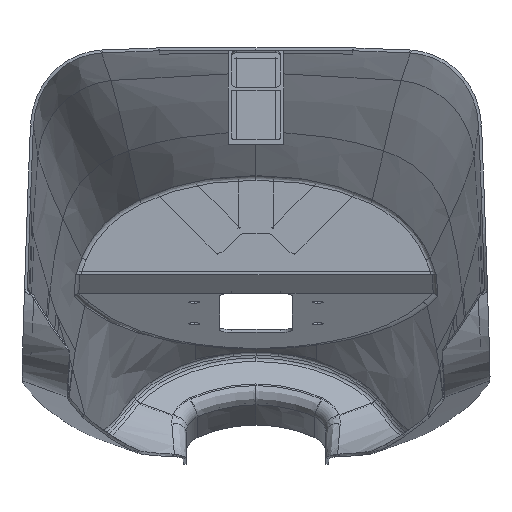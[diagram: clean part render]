
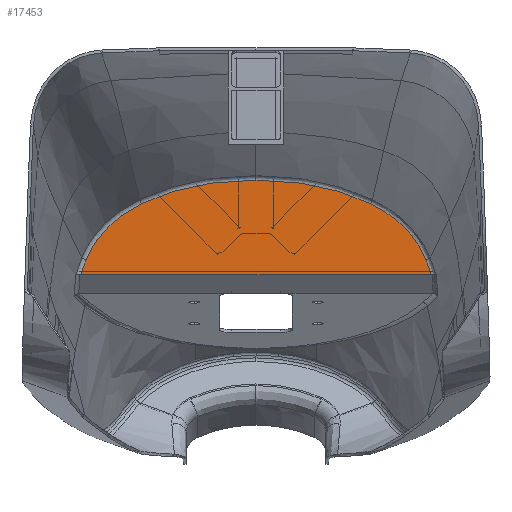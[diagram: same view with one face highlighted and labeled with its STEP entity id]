
A CAD part, left-side view. The second image highlights one B-rep face of the part: STEP entity #17453.
In plain terms, the highlighted planar face has unit normal (-1, 0, 0).
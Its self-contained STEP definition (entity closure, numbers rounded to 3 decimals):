
#1671=CARTESIAN_POINT('',(227.237,-36.169,61.229));
#3362=CARTESIAN_POINT('',(227.237,35.058,64.292));
#3363=CARTESIAN_POINT('',(227.237,35.2,63.954));
#3364=CARTESIAN_POINT('',(227.237,35.471,63.276));
#3365=CARTESIAN_POINT('',(227.237,35.828,62.287));
#3366=CARTESIAN_POINT('',(227.237,36.058,61.585));
#3367=CARTESIAN_POINT('',(227.237,36.169,61.229));
#3369=CARTESIAN_POINT('',(227.237,23.59,75.861));
#3370=CARTESIAN_POINT('',(227.237,24.436,75.446));
#3371=CARTESIAN_POINT('',(227.237,26.011,74.59));
#3372=CARTESIAN_POINT('',(227.237,28.042,73.238));
#3373=CARTESIAN_POINT('',(227.237,29.704,71.895));
#3374=CARTESIAN_POINT('',(227.237,31.14,70.494));
#3375=CARTESIAN_POINT('',(227.237,32.515,68.864));
#3376=CARTESIAN_POINT('',(227.237,33.872,66.817));
#3377=CARTESIAN_POINT('',(227.237,34.684,65.183));
#3378=CARTESIAN_POINT('',(227.237,35.058,64.292));
#3380=CARTESIAN_POINT('',(227.237,0.,80.733));
#3381=CARTESIAN_POINT('',(227.237,3.262,80.733));
#3382=CARTESIAN_POINT('',(227.237,9.358,80.309));
#3383=CARTESIAN_POINT('',(227.237,17.249,78.568));
#3384=CARTESIAN_POINT('',(227.237,21.606,76.835));
#3385=CARTESIAN_POINT('',(227.237,23.59,75.861));
#3387=CARTESIAN_POINT('',(227.237,-23.59,75.861));
#3388=CARTESIAN_POINT('',(227.237,-21.606,76.835));
#3389=CARTESIAN_POINT('',(227.237,-17.249,78.568));
#3390=CARTESIAN_POINT('',(227.237,-9.358,80.309));
#3391=CARTESIAN_POINT('',(227.237,-3.262,80.733));
#3392=CARTESIAN_POINT('',(227.237,0.,80.733));
#3394=CARTESIAN_POINT('',(227.237,-35.058,64.292));
#3395=CARTESIAN_POINT('',(227.237,-34.684,65.183));
#3396=CARTESIAN_POINT('',(227.237,-33.872,66.817));
#3397=CARTESIAN_POINT('',(227.237,-32.515,68.864));
#3398=CARTESIAN_POINT('',(227.237,-31.14,70.494));
#3399=CARTESIAN_POINT('',(227.237,-29.704,71.895));
#3400=CARTESIAN_POINT('',(227.237,-28.042,73.238));
#3401=CARTESIAN_POINT('',(227.237,-26.011,74.59));
#3402=CARTESIAN_POINT('',(227.237,-24.436,75.446));
#3403=CARTESIAN_POINT('',(227.237,-23.59,75.861));
#3405=CARTESIAN_POINT('',(227.237,-36.169,61.229));
#3406=CARTESIAN_POINT('',(227.237,-36.068,61.554));
#3407=CARTESIAN_POINT('',(227.237,-35.853,62.214));
#3408=CARTESIAN_POINT('',(227.237,-35.494,63.215));
#3409=CARTESIAN_POINT('',(227.237,-35.211,63.928));
#3410=CARTESIAN_POINT('',(227.237,-35.058,64.292));
#3412=DIRECTION('',(0.,1.,0.));
#3413=VECTOR('',#3412,72.338);
#3414=CARTESIAN_POINT('',(227.237,-36.169,61.229));
#3415=LINE('',#3414,#3413);
#10516=VERTEX_POINT('',#3362);
#10517=VERTEX_POINT('',#3367);
#10522=VERTEX_POINT('',#3369);
#10524=VERTEX_POINT('',#3380);
#10526=VERTEX_POINT('',#3387);
#10528=VERTEX_POINT('',#3394);
#10529=VERTEX_POINT('',#1671);
#17434=CARTESIAN_POINT('',(227.237,0.,81.423));
#17435=DIRECTION('',(-1.,0.,0.));
#17436=DIRECTION('',(0.,0.,-1.));
#17437=AXIS2_PLACEMENT_3D('',#17434,#17435,#17436);
#17438=PLANE('',#17437);
#17439=ORIENTED_EDGE('',*,*,#17423,.F.);
#17441=ORIENTED_EDGE('',*,*,#17440,.F.);
#17443=ORIENTED_EDGE('',*,*,#17442,.F.);
#17445=ORIENTED_EDGE('',*,*,#17444,.F.);
#17447=ORIENTED_EDGE('',*,*,#17446,.F.);
#17449=ORIENTED_EDGE('',*,*,#17448,.F.);
#17450=ORIENTED_EDGE('',*,*,#14347,.T.);
#17451=EDGE_LOOP('',(#17439,#17441,#17443,#17445,#17447,#17449,#17450));
#17452=FACE_OUTER_BOUND('',#17451,.F.);
#3368=B_SPLINE_CURVE_WITH_KNOTS('',3,(#3362,#3363,#3364,#3365,#3366,#3367),
.UNSPECIFIED.,.F.,.F.,(4,1,1,4),(0.,0.333,0.667,1.),
.UNSPECIFIED.);
#3379=B_SPLINE_CURVE_WITH_KNOTS('',3,(#3369,#3370,#3371,#3372,#3373,#3374,#3375,
#3376,#3377,#3378),.UNSPECIFIED.,.F.,.F.,(4,1,1,1,1,1,1,4),(0.,
0.143,0.286,0.429,0.571,
0.714,0.857,1.),.UNSPECIFIED.);
#3386=B_SPLINE_CURVE_WITH_KNOTS('',3,(#3380,#3381,#3382,#3383,#3384,#3385),
.UNSPECIFIED.,.F.,.F.,(4,1,1,4),(0.,0.333,0.667,1.),
.UNSPECIFIED.);
#3393=B_SPLINE_CURVE_WITH_KNOTS('',3,(#3387,#3388,#3389,#3390,#3391,#3392),
.UNSPECIFIED.,.F.,.F.,(4,1,1,4),(0.,0.333,0.667,1.),
.UNSPECIFIED.);
#3404=B_SPLINE_CURVE_WITH_KNOTS('',3,(#3394,#3395,#3396,#3397,#3398,#3399,#3400,
#3401,#3402,#3403),.UNSPECIFIED.,.F.,.F.,(4,1,1,1,1,1,1,4),(0.,
0.143,0.286,0.429,0.571,
0.714,0.857,1.),.UNSPECIFIED.);
#3411=B_SPLINE_CURVE_WITH_KNOTS('',3,(#3405,#3406,#3407,#3408,#3409,#3410),
.UNSPECIFIED.,.F.,.F.,(4,1,1,4),(0.,0.333,0.667,1.),
.UNSPECIFIED.);
#14347=EDGE_CURVE('',#10529,#10517,#3415,.T.);
#17423=EDGE_CURVE('',#10516,#10517,#3368,.T.);
#17440=EDGE_CURVE('',#10522,#10516,#3379,.T.);
#17442=EDGE_CURVE('',#10524,#10522,#3386,.T.);
#17444=EDGE_CURVE('',#10526,#10524,#3393,.T.);
#17446=EDGE_CURVE('',#10528,#10526,#3404,.T.);
#17448=EDGE_CURVE('',#10529,#10528,#3411,.T.);
#17453=ADVANCED_FACE('',(#17452),#17438,.T.);
